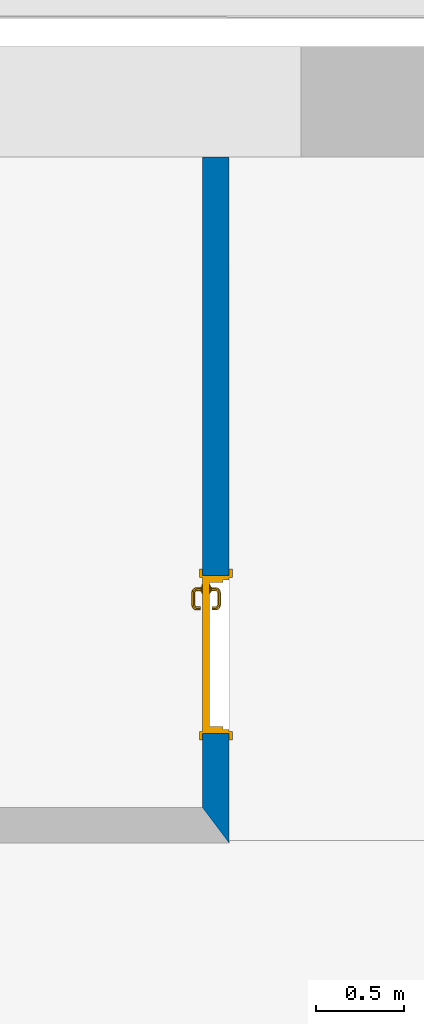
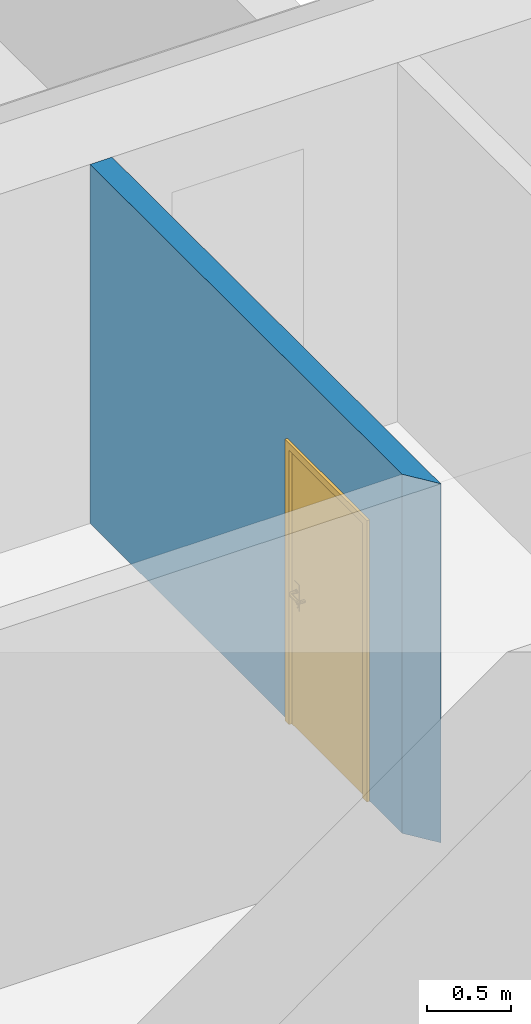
# One storey, part 14 of 127: 1 door, 1 wall, 1 opening.
"""IFC2X3 building model written with IfcOpenShell, lengths in millimetres."""

from ifc_helpers import new_model, entity, si_unit, converted_unit, derived_unit, money_unit, direction, frame, origin_with_axes, origin_2d_with_axis, place, context, subcontext, project, spatial, polyline, rectangle, outline, extrude, open_shell, faceted_brep, surface_model, source, transform, mapped, material, layer, layer_set, layer_usage, type_object, element, fill, save


model = new_model("IFC2X3")

# Units and contexts
model_context = context("Model", 3, precision=1e-05, world=origin_with_axes(), true_north=direction((0.0, 1.0)))
body_context = subcontext(model_context, "Body", "Model", "MODEL_VIEW")
ifc_project = project(units=[si_unit("LENGTHUNIT", "METRE", prefix="MILLI"), si_unit("AREAUNIT", "SQUARE_METRE"), si_unit("VOLUMEUNIT", "CUBIC_METRE"), converted_unit("PLANEANGLEUNIT", "DEGREE", entity("IfcPlaneAngleMeasure", 0.0174532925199), si_unit("PLANEANGLEUNIT", "RADIAN"), dimensions=[0, 0, 0, 0, 0, 0, 0]), si_unit("SOLIDANGLEUNIT", "STERADIAN"), money_unit("EUR"), converted_unit("TIMEUNIT", "Year", entity("IfcTimeMeasure", 31556926.0), si_unit("TIMEUNIT", "SECOND"), dimensions=[0, 0, 1, 0, 0, 0, 0]), si_unit("MASSUNIT", "GRAM", prefix="KILO"), si_unit("THERMODYNAMICTEMPERATUREUNIT", "DEGREE_CELSIUS"), si_unit("LUMINOUSINTENSITYUNIT", "LUMEN"), si_unit("ENERGYUNIT", "JOULE", prefix="MEGA"), derived_unit("THERMALCONDUCTANCEUNIT", [(si_unit("POWERUNIT", "WATT"), 1), (si_unit("LENGTHUNIT", "METRE"), -1), (si_unit("THERMODYNAMICTEMPERATUREUNIT", "KELVIN"), -1)]), derived_unit("SPECIFICHEATCAPACITYUNIT", [(si_unit("ENERGYUNIT", "JOULE"), 1), (si_unit("MASSUNIT", "GRAM", prefix="KILO"), -1), (si_unit("THERMODYNAMICTEMPERATUREUNIT", "KELVIN"), -1)]), derived_unit("MASSDENSITYUNIT", [(si_unit("MASSUNIT", "GRAM", prefix="KILO"), 1), (si_unit("VOLUMEUNIT", "CUBIC_METRE"), -1)])], contexts=[model_context])

# Site, building, storey
site_placement = place(None, origin_with_axes())
site = spatial("IfcSite", under=ifc_project, at=site_placement, Name="Site", CompositionType="ELEMENT")
building_placement = place(site_placement, origin_with_axes())
building = spatial("IfcBuilding", under=site, at=building_placement, Name="Building", CompositionType="ELEMENT")
storey_placement = place(building_placement, origin_with_axes())
storey = spatial("IfcBuildingStorey", under=building, at=storey_placement, Name="1 KORRUS", CompositionType="ELEMENT", Elevation=0.0)

# Wall, opening, door
ifc_material = material(Name="Kivi -Ol.Olev Konstruktsioon")
ifc_layer = layer(ifc_material, 150.0, ventilated="UNKNOWN")
ifc_layer_set = layer_set([ifc_layer], Name="ol.olev ss 150")
ifc_layer_usage = layer_usage(ifc_layer_set, "AXIS2", "POSITIVE", 0.0)
wall_type = type_object("IfcWallType", Name="SW - 036", PredefinedType="NOTDEFINED")
wall_placement = place(storey_placement, frame((79700.2206896, 47236.8020404, 0.0), z_axis=(0.0, 0.0, 1.0), x_axis=(0.0, -1.0, 0.0)))
wall = element("IfcWallStandardCase", 1, at=wall_placement, inside=storey, type_object=wall_type, material=ifc_layer_usage, Name="ol.olev ss 150", context=body_context, shape_type="SweptSolid", body=[
    extrude(outline(polyline([(630.000019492, 0.0), (4330.28997385, 0.0), (4530.28997385, 150.0), (630.037332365, 150.0), (630.000019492, 0.0)])), origin_with_axes(), (0.0, 0.0, 1.0), 2600.0),
])
opening_placement = place(wall_placement, frame((3459.11423004, 0.0, 0.0), z_axis=(0.0, 0.0, 1.0), x_axis=(1.0, 0.0, 0.0)))
opening = element("IfcOpeningElement", 2, at=opening_placement, cuts=wall, Name="Siseuks * Door 22", context=body_context, shape_type="SweptSolid", body=[
    extrude(rectangle(XDim=900.0, YDim=2000.0, at=origin_2d_with_axis()), frame((0.0, 150.0, 1000.0), z_axis=(0.0, 1.0, 0.0), x_axis=(1.0, 0.0, 0.0)), (0.0, 0.0, -1.0), 450.0),
    extrude(rectangle(XDim=974.0, YDim=2037.0, at=origin_2d_with_axis()), frame((0.0, 150.0, 1018.5), z_axis=(0.0, 1.0, 0.0), x_axis=(1.0, 0.0, 0.0)), (0.0, 0.0, 1.0), 150.0),
    extrude(rectangle(XDim=974.0, YDim=2037.0, at=origin_2d_with_axis()), frame((0.0, 0.0, 1018.5), z_axis=(0.0, -1.0, 0.0), x_axis=(1.0, 0.0, 0.0)), (0.0, 0.0, 1.0), 150.0),
])
door_style = type_object("IfcDoorStyle", Name="SU-B128   900×2\xa0000", ConstructionType="NOTDEFINED", OperationType="SINGLE_SWING_LEFT", ParameterTakesPrecedence=False, Sizeable=False)
shared_shape = source(origin_with_axes(), body_context, "Body", "SurfaceModel", [
    faceted_brep([(450.0, -115.0, 0.0), (450.0, -150.0, 0.0), (425.0, -150.0, 0.0), (425.0, -115.0, 0.0), (450.0, -115.0, 2000.0), (450.0, -150.0, 2000.0), (425.0, -150.0, 1975.0), (425.0, -115.0, 1975.0)], [[[0, 1, 2, 3]], [[4, 5, 1, 0]], [[1, 5, 6, 2]], [[3, 2, 6, 7]], [[0, 3, 7, 4]], [[7, 6, 5, 4]]]),
    faceted_brep([(-450.0, -115.0, 2000.0), (-450.0, -150.0, 2000.0), (-425.0, -150.0, 1975.0), (-425.0, -115.0, 1975.0), (-450.0, -115.0, 0.0), (-450.0, -150.0, 0.0), (-425.0, -150.0, 0.0), (-425.0, -115.0, 0.0)], [[[0, 1, 2, 3]], [[4, 5, 1, 0]], [[1, 5, 6, 2]], [[3, 2, 6, 7]], [[0, 3, 7, 4]], [[7, 6, 5, 4]]]),
    faceted_brep([(425.0, -115.0, 1975.0), (425.0, -150.0, 1975.0), (-425.0, -150.0, 1975.0), (-425.0, -115.0, 1975.0), (450.0, -115.0, 2000.0), (450.0, -150.0, 2000.0), (-450.0, -150.0, 2000.0), (-450.0, -115.0, 2000.0)], [[[0, 1, 2, 3]], [[4, 5, 1, 0]], [[1, 5, 6, 2]], [[3, 2, 6, 7]], [[0, 3, 7, 4]], [[7, 6, 5, 4]]]),
    faceted_brep([(487.0, -169.0, 0.0), (437.0, -169.0, 0.0), (437.0, -150.0, 0.0), (487.0, -150.0, 0.0), (487.0, -169.0, 2037.0), (437.0, -169.0, 1987.0), (437.0, -150.0, 1987.0), (487.0, -150.0, 2037.0)], [[[0, 1, 2, 3]], [[0, 4, 5, 1]], [[1, 5, 6, 2]], [[3, 2, 6, 7]], [[4, 0, 3, 7]], [[5, 4, 7, 6]]]),
    faceted_brep([(-487.0, -169.0, 2037.0), (-437.0, -169.0, 1987.0), (-437.0, -150.0, 1987.0), (-487.0, -150.0, 2037.0), (-487.0, -169.0, 0.0), (-437.0, -169.0, 0.0), (-437.0, -150.0, 0.0), (-487.0, -150.0, 0.0)], [[[0, 1, 2, 3]], [[0, 4, 5, 1]], [[1, 5, 6, 2]], [[3, 2, 6, 7]], [[4, 0, 3, 7]], [[5, 4, 7, 6]]]),
    faceted_brep([(487.0, -169.0, 2037.0), (437.0, -169.0, 1987.0), (437.0, -150.0, 1987.0), (487.0, -150.0, 2037.0), (-487.0, -169.0, 2037.0), (-437.0, -169.0, 1987.0), (-437.0, -150.0, 1987.0), (-487.0, -150.0, 2037.0)], [[[0, 1, 2, 3]], [[0, 4, 5, 1]], [[1, 5, 6, 2]], [[3, 2, 6, 7]], [[4, 0, 3, 7]], [[5, 4, 7, 6]]]),
    faceted_brep([(487.0, 19.0, 0.0), (487.0, 0.0, 0.0), (437.0, 0.0, 0.0), (437.0, 19.0, 0.0), (487.0, 19.0, 2037.0), (487.0, 0.0, 2037.0), (437.0, 0.0, 1987.0), (437.0, 19.0, 1987.0)], [[[0, 1, 2, 3]], [[4, 5, 1, 0]], [[1, 5, 6, 2]], [[3, 2, 6, 7]], [[0, 3, 7, 4]], [[7, 6, 5, 4]]]),
    faceted_brep([(-487.0, 19.0, 2037.0), (-487.0, 0.0, 2037.0), (-437.0, 0.0, 1987.0), (-437.0, 19.0, 1987.0), (-487.0, 19.0, 0.0), (-487.0, 0.0, 0.0), (-437.0, 0.0, 0.0), (-437.0, 19.0, 0.0)], [[[0, 1, 2, 3]], [[4, 5, 1, 0]], [[1, 5, 6, 2]], [[3, 2, 6, 7]], [[0, 3, 7, 4]], [[7, 6, 5, 4]]]),
    faceted_brep([(487.0, 19.0, 2037.0), (487.0, 0.0, 2037.0), (437.0, 0.0, 1987.0), (437.0, 19.0, 1987.0), (-487.0, 19.0, 2037.0), (-487.0, 0.0, 2037.0), (-437.0, 0.0, 1987.0), (-437.0, 19.0, 1987.0)], [[[0, 1, 2, 3]], [[4, 5, 1, 0]], [[1, 5, 6, 2]], [[3, 2, 6, 7]], [[0, 3, 7, 4]], [[7, 6, 5, 4]]]),
    faceted_brep([(410.0, -40.0, 0.0), (410.0, -115.0, 0.0), (410.0, -115.0, 1960.0), (410.0, -40.0, 1960.0), (422.0, -40.0, 0.0), (422.0, 0.0, 0.0), (450.0, 0.0, 0.0), (450.0, -115.0, 0.0), (450.0, -115.0, 1960.0), (422.0, -40.0, 1960.0), (450.0, 0.0, 1960.0), (422.0, 0.0, 1960.0)], [[[0, 1, 2, 3]], [[4, 5, 6, 7, 1, 0]], [[1, 7, 8, 2]], [[9, 3, 2, 8, 10, 11]], [[9, 4, 0, 3]], [[11, 5, 4, 9]], [[11, 10, 6, 5]], [[6, 10, 8, 7]]]),
    faceted_brep([(-422.0, -40.0, 1960.0), (-422.0, 0.0, 1960.0), (-450.0, 0.0, 1960.0), (-450.0, -115.0, 1960.0), (-410.0, -115.0, 1960.0), (-410.0, -40.0, 1960.0), (-422.0, -40.0, 0.0), (-422.0, 0.0, 0.0), (-450.0, 0.0, 0.0), (-450.0, -115.0, 0.0), (-410.0, -115.0, 0.0), (-410.0, -40.0, 0.0)], [[[0, 1, 2, 3, 4, 5]], [[0, 6, 7, 1]], [[7, 8, 2, 1]], [[2, 8, 9, 3]], [[3, 9, 10, 4]], [[5, 4, 10, 11]], [[5, 11, 6, 0]], [[6, 11, 10, 9, 8, 7]]]),
    faceted_brep([(422.0, 0.0, 1972.0), (-422.0, 0.0, 1972.0), (-422.0, 0.0, 1960.0), (-450.0, 0.0, 1960.0), (-450.0, 0.0, 2000.0), (450.0, 0.0, 2000.0), (450.0, 0.0, 1960.0), (422.0, 0.0, 1960.0), (422.0, -40.0, 1972.0), (-422.0, -40.0, 1972.0), (-422.0, -40.0, 1960.0), (-410.0, -40.0, 1960.0), (-410.0, -115.0, 1960.0), (-450.0, -115.0, 1960.0), (-450.0, -115.0, 2000.0), (450.0, -115.0, 2000.0), (450.0, -115.0, 1960.0), (422.0, -40.0, 1960.0), (410.0, -115.0, 1960.0), (410.0, -40.0, 1960.0)], [[[0, 1, 2, 3, 4, 5, 6, 7]], [[0, 8, 9, 1]], [[1, 9, 10, 2]], [[10, 11, 12, 13, 3, 2]], [[4, 3, 13, 14]], [[5, 4, 14, 15]], [[6, 5, 15, 16]], [[17, 7, 6, 16, 18, 19]], [[7, 17, 8, 0]], [[10, 9, 8, 17, 19, 11]], [[19, 18, 12, 11]], [[12, 18, 16, 15, 14, 13]]]),
    faceted_brep([(400.5, -40.0, 1060.0), (343.5, -40.0, 1060.0), (343.5, -43.0, 1060.0), (400.5, -43.0, 1060.0), (400.5, -40.0, 870.0), (343.5, -40.0, 870.0), (343.5, -43.0, 870.0), (400.5, -43.0, 870.0)], [[[0, 1, 2, 3]], [[0, 4, 5, 1]], [[1, 5, 6, 2]], [[3, 2, 6, 7]], [[4, 0, 3, 7]], [[5, 4, 7, 6]]]),
    surface_model("IfcShellBasedSurfaceModel", [(362.0, -53.0, 1000.0), (364.928932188, -53.0, 992.928932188), (364.928932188, -72.303560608, 992.928932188), (362.0, -72.0150859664, 1000.0), (372.0, -53.0, 990.0), (372.0, -73.0, 990.0), (363.816790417, -77.8946748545, 992.928932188), (361.057796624, -76.751862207, 1000.0), (364.928932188, -53.0, 1007.07106781), (364.928932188, -72.303560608, 1007.07106781), (379.071067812, -53.0, 992.928932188), (379.071067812, -73.696439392, 992.928932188), (370.47759065, -80.6536686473, 990.0), (361.044179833, -82.0441798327, 992.928932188), (358.932537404, -79.9325374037, 1000.0), (363.816790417, -77.8946748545, 1007.07106781), (372.0, -53.0, 1010.0), (372.0, -73.0, 1010.0), (382.0, -53.0, 1000.0), (382.0, -73.9849140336, 1000.0), (377.138390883, -83.4126624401, 992.928932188), (366.142135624, -87.1421356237, 990.0), (356.894674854, -84.8167904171, 992.928932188), (355.751862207, -82.0577966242, 1000.0), (361.044179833, -82.0441798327, 1007.07106781), (370.47759065, -80.6536686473, 1010.0), (379.071067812, -53.0, 1007.07106781), (379.071067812, -73.696439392, 1007.07106781), (379.897384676, -84.5554750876, 1000.0), (371.240091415, -92.2400914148, 992.928932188), (359.653668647, -91.4775906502, 990.0), (351.303560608, -85.9289321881, 992.928932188), (351.015085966, -83.0, 1000.0), (356.894674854, -84.8167904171, 1007.07106781), (366.142135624, -87.1421356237, 1010.0), (377.138390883, -83.4126624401, 1007.07106781), (373.351733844, -94.3517338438, 1000.0), (362.41266244, -98.1383908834, 992.928932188), (352.0, -93.0, 990.0), (282.696439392, -85.9289321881, 992.928932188), (282.984914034, -83.0, 1000.0), (351.303560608, -85.9289321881, 1007.07106781), (359.653668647, -91.4775906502, 1010.0), (371.240091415, -92.2400914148, 1007.07106781), (363.555475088, -100.897384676, 1000.0), (352.696439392, -100.071067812, 992.928932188), (282.0, -93.0, 990.0), (277.105325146, -84.8167904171, 992.928932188), (278.248137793, -82.0577966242, 1000.0), (282.696439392, -85.9289321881, 1007.07106781), (352.0, -93.0, 1010.0), (362.41266244, -98.1383908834, 1007.07106781), (352.984914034, -103.0, 1000.0), (281.303560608, -100.071067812, 992.928932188), (274.346331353, -91.4775906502, 990.0), (272.955820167, -82.0441798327, 992.928932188), (275.067462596, -79.9325374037, 1000.0), (277.105325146, -84.8167904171, 1007.07106781), (282.0, -93.0, 1010.0), (352.696439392, -100.071067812, 1007.07106781), (281.015085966, -103.0, 1000.0), (271.58733756, -98.1383908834, 992.928932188), (267.857864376, -87.1421356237, 990.0), (270.183209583, -77.8946748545, 992.928932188), (272.942203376, -76.751862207, 1000.0), (272.955820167, -82.0441798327, 1007.07106781), (274.346331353, -91.4775906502, 1010.0), (281.303560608, -100.071067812, 1007.07106781), (270.444524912, -100.897384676, 1000.0), (262.759908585, -92.2400914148, 992.928932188), (263.52240935, -80.6536686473, 990.0), (269.071067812, -72.303560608, 992.928932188), (272.0, -72.0150859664, 1000.0), (270.183209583, -77.8946748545, 1007.07106781), (267.857864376, -87.1421356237, 1010.0), (271.58733756, -98.1383908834, 1007.07106781), (260.648266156, -94.3517338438, 1000.0), (256.861609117, -83.4126624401, 992.928932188), (262.0, -73.0, 990.0), (269.071067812, -53.0, 992.928932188), (272.0, -53.0, 1000.0), (269.071067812, -72.303560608, 1007.07106781), (263.52240935, -80.6536686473, 1010.0), (262.759908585, -92.2400914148, 1007.07106781), (254.102615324, -84.5554750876, 1000.0), (254.928932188, -73.696439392, 992.928932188), (262.0, -53.0, 990.0), (254.928932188, -53.0, 992.928932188), (252.0, -53.0, 1000.0), (254.928932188, -53.0, 1007.07106781), (262.0, -53.0, 1010.0), (269.071067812, -53.0, 1007.07106781), (262.0, -73.0, 1010.0), (256.861609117, -83.4126624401, 1007.07106781), (252.0, -73.9849140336, 1000.0), (254.928932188, -73.696439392, 1007.07106781)], [open_shell([[[0, 1, 2, 3]], [[1, 4, 5, 2]], [[3, 2, 6, 7]], [[8, 0, 3, 9]], [[4, 10, 11, 5]], [[2, 5, 12, 6]], [[7, 6, 13, 14]], [[9, 3, 7, 15]], [[16, 8, 9, 17]], [[10, 18, 19, 11]], [[5, 11, 20, 12]], [[6, 12, 21, 13]], [[14, 13, 22, 23]], [[15, 7, 14, 24]], [[17, 9, 15, 25]], [[26, 16, 17, 27]], [[18, 26, 27, 19]], [[11, 19, 28, 20]], [[12, 20, 29, 21]], [[13, 21, 30, 22]], [[23, 22, 31, 32]], [[24, 14, 23, 33]], [[25, 15, 24, 34]], [[27, 17, 25, 35]], [[19, 27, 35, 28]], [[20, 28, 36, 29]], [[21, 29, 37, 30]], [[22, 30, 38, 31]], [[32, 31, 39, 40]], [[33, 23, 32, 41]], [[34, 24, 33, 42]], [[35, 25, 34, 43]], [[28, 35, 43, 36]], [[29, 36, 44, 37]], [[30, 37, 45, 38]], [[31, 38, 46, 39]], [[40, 39, 47, 48]], [[41, 32, 40, 49]], [[42, 33, 41, 50]], [[43, 34, 42, 51]], [[36, 43, 51, 44]], [[37, 44, 52, 45]], [[38, 45, 53, 46]], [[39, 46, 54, 47]], [[48, 47, 55, 56]], [[49, 40, 48, 57]], [[50, 41, 49, 58]], [[51, 42, 50, 59]], [[44, 51, 59, 52]], [[45, 52, 60, 53]], [[46, 53, 61, 54]], [[47, 54, 62, 55]], [[56, 55, 63, 64]], [[57, 48, 56, 65]], [[58, 49, 57, 66]], [[59, 50, 58, 67]], [[52, 59, 67, 60]], [[53, 60, 68, 61]], [[54, 61, 69, 62]], [[55, 62, 70, 63]], [[64, 63, 71, 72]], [[65, 56, 64, 73]], [[66, 57, 65, 74]], [[67, 58, 66, 75]], [[60, 67, 75, 68]], [[61, 68, 76, 69]], [[62, 69, 77, 70]], [[63, 70, 78, 71]], [[72, 71, 79, 80]], [[73, 64, 72, 81]], [[74, 65, 73, 82]], [[75, 66, 74, 83]], [[68, 75, 83, 76]], [[69, 76, 84, 77]], [[70, 77, 85, 78]], [[71, 78, 86, 79]], [[80, 79, 86, 87, 88, 89, 90, 91]], [[81, 72, 80, 91]], [[82, 73, 81, 92]], [[83, 74, 82, 93]], [[76, 83, 93, 84]], [[77, 84, 94, 85]], [[78, 85, 87, 86]], [[85, 94, 88, 87]], [[94, 95, 89, 88]], [[95, 92, 90, 89]], [[92, 81, 91, 90]], [[93, 82, 92, 95]], [[84, 93, 95, 94]]])]),
    faceted_brep([(361.607695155, -53.0, 994.0), (360.0, -53.0, 1000.0), (359.0, -43.0, 1000.0), (360.741669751, -43.0, 993.5), (366.0, -53.0, 989.607695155), (372.0, -53.0, 988.0), (378.0, -53.0, 989.607695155), (382.392304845, -53.0, 994.0), (384.0, -53.0, 1000.0), (382.392304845, -53.0, 1006.0), (378.0, -53.0, 1010.39230485), (372.0, -53.0, 1012.0), (366.0, -53.0, 1010.39230485), (361.607695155, -53.0, 1006.0), (360.741669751, -43.0, 1006.5), (365.5, -43.0, 1011.25833025), (372.0, -43.0, 1013.0), (378.5, -43.0, 1011.25833025), (383.258330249, -43.0, 1006.5), (385.0, -43.0, 1000.0), (383.258330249, -43.0, 993.5), (378.5, -43.0, 988.741669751), (372.0, -43.0, 987.0), (365.5, -43.0, 988.741669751)], [[[0, 1, 2, 3]], [[1, 0, 4, 5, 6, 7, 8, 9, 10, 11, 12, 13]], [[1, 13, 14, 2]], [[2, 14, 15, 16, 17, 18, 19, 20, 21, 22, 23, 3]], [[4, 0, 3, 23]], [[5, 4, 23, 22]], [[6, 5, 22, 21]], [[7, 6, 21, 20]], [[8, 7, 20, 19]], [[9, 8, 19, 18]], [[10, 9, 18, 17]], [[11, 10, 17, 16]], [[12, 11, 16, 15]], [[13, 12, 15, 14]]]),
    faceted_brep([(354.679491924, -47.0, 895.0), (352.0, -47.0, 905.0), (350.0, -43.0, 905.0), (352.947441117, -43.0, 894.0), (362.0, -47.0, 887.679491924), (372.0, -47.0, 885.0), (382.0, -47.0, 887.679491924), (389.320508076, -47.0, 895.0), (392.0, -47.0, 905.0), (389.320508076, -47.0, 915.0), (382.0, -47.0, 922.320508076), (372.0, -47.0, 925.0), (362.0, -47.0, 922.320508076), (354.679491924, -47.0, 915.0), (352.947441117, -43.0, 916.0), (361.0, -43.0, 924.052558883), (372.0, -43.0, 927.0), (383.0, -43.0, 924.052558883), (391.052558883, -43.0, 916.0), (394.0, -43.0, 905.0), (391.052558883, -43.0, 894.0), (383.0, -43.0, 885.947441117), (372.0, -43.0, 883.0), (361.0, -43.0, 885.947441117)], [[[0, 1, 2, 3]], [[1, 0, 4, 5, 6, 7, 8, 9, 10, 11, 12, 13]], [[1, 13, 14, 2]], [[2, 14, 15, 16, 17, 18, 19, 20, 21, 22, 23, 3]], [[4, 0, 3, 23]], [[5, 4, 23, 22]], [[6, 5, 22, 21]], [[7, 6, 21, 20]], [[8, 7, 20, 19]], [[9, 8, 19, 18]], [[10, 9, 18, 17]], [[11, 10, 17, 16]], [[12, 11, 16, 15]], [[13, 12, 15, 14]]]),
    faceted_brep([(367.050252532, -49.0, 909.050252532), (365.0, -49.0, 914.0), (364.0, -47.0, 914.0), (366.343145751, -47.0, 908.343145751), (372.0, -49.0, 907.0), (376.949747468, -49.0, 909.050252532), (379.0, -49.0, 914.0), (376.949747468, -49.0, 918.949747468), (372.0, -49.0, 921.0), (367.050252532, -49.0, 918.949747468), (366.343145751, -47.0, 919.656854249), (372.0, -47.0, 922.0), (377.656854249, -47.0, 919.656854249), (380.0, -47.0, 914.0), (377.656854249, -47.0, 908.343145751), (372.0, -47.0, 906.0)], [[[0, 1, 2, 3]], [[1, 0, 4, 5, 6, 7, 8, 9]], [[1, 9, 10, 2]], [[2, 10, 11, 12, 13, 14, 15, 3]], [[4, 0, 3, 15]], [[5, 4, 15, 14]], [[6, 5, 14, 13]], [[7, 6, 13, 12]], [[8, 7, 12, 11]], [[9, 8, 11, 10]]]),
    faceted_brep([(400.5, 0.0, 1060.0), (400.5, 3.0, 1060.0), (343.5, 3.0, 1060.0), (343.5, 0.0, 1060.0), (400.5, 0.0, 870.0), (400.5, 3.0, 870.0), (343.5, 3.0, 870.0), (343.5, 0.0, 870.0)], [[[0, 1, 2, 3]], [[4, 5, 1, 0]], [[1, 5, 6, 2]], [[3, 2, 6, 7]], [[0, 3, 7, 4]], [[7, 6, 5, 4]]]),
    surface_model("IfcShellBasedSurfaceModel", [(362.0, 13.0, 1000.0), (362.0, 32.0150859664, 1000.0), (364.928932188, 32.303560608, 992.928932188), (364.928932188, 13.0, 992.928932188), (364.928932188, 13.0, 1007.07106781), (364.928932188, 32.303560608, 1007.07106781), (361.057796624, 36.751862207, 1000.0), (363.816790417, 37.8946748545, 992.928932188), (372.0, 33.0, 990.0), (372.0, 13.0, 990.0), (372.0, 13.0, 1010.0), (372.0, 33.0, 1010.0), (363.816790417, 37.8946748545, 1007.07106781), (358.932537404, 39.9325374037, 1000.0), (361.044179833, 42.0441798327, 992.928932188), (370.47759065, 40.6536686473, 990.0), (379.071067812, 33.696439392, 992.928932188), (379.071067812, 13.0, 992.928932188), (379.071067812, 13.0, 1007.07106781), (379.071067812, 33.696439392, 1007.07106781), (370.47759065, 40.6536686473, 1010.0), (361.044179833, 42.0441798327, 1007.07106781), (355.751862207, 42.0577966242, 1000.0), (356.894674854, 44.8167904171, 992.928932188), (366.142135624, 47.1421356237, 990.0), (377.138390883, 43.4126624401, 992.928932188), (382.0, 33.9849140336, 1000.0), (382.0, 13.0, 1000.0), (377.138390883, 43.4126624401, 1007.07106781), (366.142135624, 47.1421356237, 1010.0), (356.894674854, 44.8167904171, 1007.07106781), (351.015085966, 43.0, 1000.0), (351.303560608, 45.9289321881, 992.928932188), (359.653668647, 51.4775906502, 990.0), (371.240091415, 52.2400914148, 992.928932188), (379.897384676, 44.5554750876, 1000.0), (371.240091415, 52.2400914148, 1007.07106781), (359.653668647, 51.4775906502, 1010.0), (351.303560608, 45.9289321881, 1007.07106781), (282.984914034, 43.0, 1000.0), (282.696439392, 45.9289321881, 992.928932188), (352.0, 53.0, 990.0), (362.41266244, 58.1383908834, 992.928932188), (373.351733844, 54.3517338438, 1000.0), (362.41266244, 58.1383908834, 1007.07106781), (352.0, 53.0, 1010.0), (282.696439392, 45.9289321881, 1007.07106781), (278.248137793, 42.0577966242, 1000.0), (277.105325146, 44.8167904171, 992.928932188), (282.0, 53.0, 990.0), (352.696439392, 60.0710678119, 992.928932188), (363.555475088, 60.8973846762, 1000.0), (352.696439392, 60.0710678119, 1007.07106781), (282.0, 53.0, 1010.0), (277.105325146, 44.8167904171, 1007.07106781), (275.067462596, 39.9325374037, 1000.0), (272.955820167, 42.0441798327, 992.928932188), (274.346331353, 51.4775906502, 990.0), (281.303560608, 60.0710678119, 992.928932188), (352.984914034, 63.0, 1000.0), (281.303560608, 60.0710678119, 1007.07106781), (274.346331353, 51.4775906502, 1010.0), (272.955820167, 42.0441798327, 1007.07106781), (272.942203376, 36.751862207, 1000.0), (270.183209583, 37.8946748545, 992.928932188), (267.857864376, 47.1421356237, 990.0), (271.58733756, 58.1383908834, 992.928932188), (281.015085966, 63.0, 1000.0), (271.58733756, 58.1383908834, 1007.07106781), (267.857864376, 47.1421356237, 1010.0), (270.183209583, 37.8946748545, 1007.07106781), (272.0, 32.0150859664, 1000.0), (269.071067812, 32.303560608, 992.928932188), (263.52240935, 40.6536686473, 990.0), (262.759908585, 52.2400914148, 992.928932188), (270.444524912, 60.8973846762, 1000.0), (262.759908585, 52.2400914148, 1007.07106781), (263.52240935, 40.6536686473, 1010.0), (269.071067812, 32.303560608, 1007.07106781), (272.0, 13.0, 1000.0), (269.071067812, 13.0, 992.928932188), (262.0, 33.0, 990.0), (256.861609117, 43.4126624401, 992.928932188), (260.648266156, 54.3517338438, 1000.0), (256.861609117, 43.4126624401, 1007.07106781), (262.0, 33.0, 1010.0), (269.071067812, 13.0, 1007.07106781), (262.0, 13.0, 1010.0), (254.928932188, 13.0, 1007.07106781), (252.0, 13.0, 1000.0), (254.928932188, 13.0, 992.928932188), (262.0, 13.0, 990.0), (254.928932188, 33.696439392, 992.928932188), (254.102615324, 44.5554750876, 1000.0), (254.928932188, 33.696439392, 1007.07106781), (252.0, 33.9849140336, 1000.0)], [open_shell([[[0, 1, 2, 3]], [[4, 5, 1, 0]], [[1, 6, 7, 2]], [[3, 2, 8, 9]], [[10, 11, 5, 4]], [[5, 12, 6, 1]], [[6, 13, 14, 7]], [[2, 7, 15, 8]], [[9, 8, 16, 17]], [[18, 19, 11, 10]], [[11, 20, 12, 5]], [[12, 21, 13, 6]], [[13, 22, 23, 14]], [[7, 14, 24, 15]], [[8, 15, 25, 16]], [[17, 16, 26, 27]], [[27, 26, 19, 18]], [[19, 28, 20, 11]], [[20, 29, 21, 12]], [[21, 30, 22, 13]], [[22, 31, 32, 23]], [[14, 23, 33, 24]], [[15, 24, 34, 25]], [[16, 25, 35, 26]], [[26, 35, 28, 19]], [[28, 36, 29, 20]], [[29, 37, 30, 21]], [[30, 38, 31, 22]], [[31, 39, 40, 32]], [[23, 32, 41, 33]], [[24, 33, 42, 34]], [[25, 34, 43, 35]], [[35, 43, 36, 28]], [[36, 44, 37, 29]], [[37, 45, 38, 30]], [[38, 46, 39, 31]], [[39, 47, 48, 40]], [[32, 40, 49, 41]], [[33, 41, 50, 42]], [[34, 42, 51, 43]], [[43, 51, 44, 36]], [[44, 52, 45, 37]], [[45, 53, 46, 38]], [[46, 54, 47, 39]], [[47, 55, 56, 48]], [[40, 48, 57, 49]], [[41, 49, 58, 50]], [[42, 50, 59, 51]], [[51, 59, 52, 44]], [[52, 60, 53, 45]], [[53, 61, 54, 46]], [[54, 62, 55, 47]], [[55, 63, 64, 56]], [[48, 56, 65, 57]], [[49, 57, 66, 58]], [[50, 58, 67, 59]], [[59, 67, 60, 52]], [[60, 68, 61, 53]], [[61, 69, 62, 54]], [[62, 70, 63, 55]], [[63, 71, 72, 64]], [[56, 64, 73, 65]], [[57, 65, 74, 66]], [[58, 66, 75, 67]], [[67, 75, 68, 60]], [[68, 76, 69, 61]], [[69, 77, 70, 62]], [[70, 78, 71, 63]], [[71, 79, 80, 72]], [[64, 72, 81, 73]], [[65, 73, 82, 74]], [[66, 74, 83, 75]], [[75, 83, 76, 68]], [[76, 84, 77, 69]], [[77, 85, 78, 70]], [[78, 86, 79, 71]], [[79, 86, 87, 88, 89, 90, 91, 80]], [[72, 80, 91, 81]], [[73, 81, 92, 82]], [[74, 82, 93, 83]], [[83, 93, 84, 76]], [[84, 94, 85, 77]], [[85, 87, 86, 78]], [[94, 88, 87, 85]], [[95, 89, 88, 94]], [[92, 90, 89, 95]], [[81, 91, 90, 92]], [[82, 92, 95, 93]], [[93, 95, 94, 84]]])]),
    faceted_brep([(361.607695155, 13.0, 994.0), (360.741669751, 3.0, 993.5), (359.0, 3.0, 1000.0), (360.0, 13.0, 1000.0), (366.0, 13.0, 989.607695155), (365.5, 3.0, 988.741669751), (372.0, 3.0, 987.0), (378.5, 3.0, 988.741669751), (383.258330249, 3.0, 993.5), (385.0, 3.0, 1000.0), (383.258330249, 3.0, 1006.5), (378.5, 3.0, 1011.25833025), (372.0, 3.0, 1013.0), (365.5, 3.0, 1011.25833025), (360.741669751, 3.0, 1006.5), (361.607695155, 13.0, 1006.0), (366.0, 13.0, 1010.39230485), (372.0, 13.0, 1012.0), (378.0, 13.0, 1010.39230485), (382.392304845, 13.0, 1006.0), (384.0, 13.0, 1000.0), (382.392304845, 13.0, 994.0), (378.0, 13.0, 989.607695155), (372.0, 13.0, 988.0)], [[[0, 1, 2, 3]], [[4, 5, 1, 0]], [[2, 1, 5, 6, 7, 8, 9, 10, 11, 12, 13, 14]], [[3, 2, 14, 15]], [[3, 15, 16, 17, 18, 19, 20, 21, 22, 23, 4, 0]], [[23, 6, 5, 4]], [[22, 7, 6, 23]], [[21, 8, 7, 22]], [[20, 9, 8, 21]], [[19, 10, 9, 20]], [[18, 11, 10, 19]], [[17, 12, 11, 18]], [[16, 13, 12, 17]], [[15, 14, 13, 16]]]),
    faceted_brep([(354.679491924, 7.0, 895.0), (352.947441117, 3.0, 894.0), (350.0, 3.0, 905.0), (352.0, 7.0, 905.0), (362.0, 7.0, 887.679491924), (361.0, 3.0, 885.947441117), (372.0, 3.0, 883.0), (383.0, 3.0, 885.947441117), (391.052558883, 3.0, 894.0), (394.0, 3.0, 905.0), (391.052558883, 3.0, 916.0), (383.0, 3.0, 924.052558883), (372.0, 3.0, 927.0), (361.0, 3.0, 924.052558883), (352.947441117, 3.0, 916.0), (354.679491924, 7.0, 915.0), (362.0, 7.0, 922.320508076), (372.0, 7.0, 925.0), (382.0, 7.0, 922.320508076), (389.320508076, 7.0, 915.0), (392.0, 7.0, 905.0), (389.320508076, 7.0, 895.0), (382.0, 7.0, 887.679491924), (372.0, 7.0, 885.0)], [[[0, 1, 2, 3]], [[4, 5, 1, 0]], [[2, 1, 5, 6, 7, 8, 9, 10, 11, 12, 13, 14]], [[3, 2, 14, 15]], [[3, 15, 16, 17, 18, 19, 20, 21, 22, 23, 4, 0]], [[23, 6, 5, 4]], [[22, 7, 6, 23]], [[21, 8, 7, 22]], [[20, 9, 8, 21]], [[19, 10, 9, 20]], [[18, 11, 10, 19]], [[17, 12, 11, 18]], [[16, 13, 12, 17]], [[15, 14, 13, 16]]]),
    faceted_brep([(367.050252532, 9.0, 909.050252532), (366.343145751, 7.0, 908.343145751), (364.0, 7.0, 914.0), (365.0, 9.0, 914.0), (372.0, 9.0, 907.0), (372.0, 7.0, 906.0), (377.656854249, 7.0, 908.343145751), (380.0, 7.0, 914.0), (377.656854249, 7.0, 919.656854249), (372.0, 7.0, 922.0), (366.343145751, 7.0, 919.656854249), (367.050252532, 9.0, 918.949747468), (372.0, 9.0, 921.0), (376.949747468, 9.0, 918.949747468), (379.0, 9.0, 914.0), (376.949747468, 9.0, 909.050252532)], [[[0, 1, 2, 3]], [[4, 5, 1, 0]], [[2, 1, 5, 6, 7, 8, 9, 10]], [[3, 2, 10, 11]], [[3, 11, 12, 13, 14, 15, 4, 0]], [[15, 6, 5, 4]], [[14, 7, 6, 15]], [[13, 8, 7, 14]], [[12, 9, 8, 13]], [[11, 10, 9, 12]]]),
    faceted_brep([(-422.0, 0.0, 0.0), (422.0, 0.0, 0.0), (422.0, -40.0, 0.0), (-422.0, -40.0, 0.0), (-422.0, 0.0, 1972.0), (422.0, 0.0, 1972.0), (422.0, -40.0, 1972.0), (-422.0, -40.0, 1972.0)], [[[0, 1, 2, 3]], [[0, 4, 5, 1]], [[1, 5, 6, 2]], [[3, 2, 6, 7]], [[4, 0, 3, 7]], [[5, 4, 7, 6]]]),
])
door_placement = place(opening_placement, frame((450.0, 0.0, 0.0), z_axis=(0.0, 0.0, 1.0), x_axis=(-1.0, 0.0, 0.0)))
door = element("IfcDoor", 3, at=door_placement, inside=storey, type_object=door_style, Name="Siseuks * Door 22", OverallHeight=2000.0, OverallWidth=900.0, context=body_context, shape_type="MappedRepresentation", body=[
    mapped(shared_shape, transform((450.0, 0.0, 0.0))),
])
fill(opening, door)

save(model, "model.ifc")
